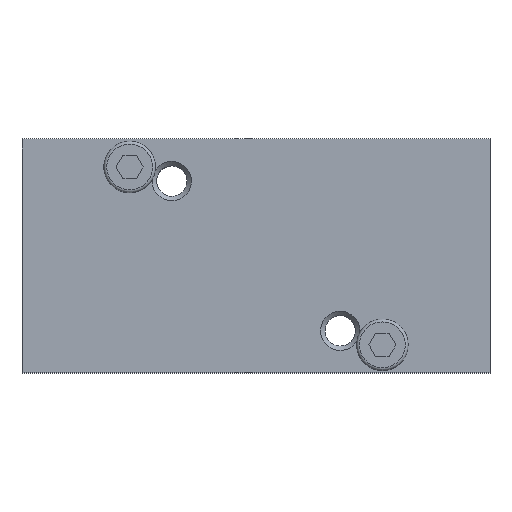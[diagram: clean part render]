
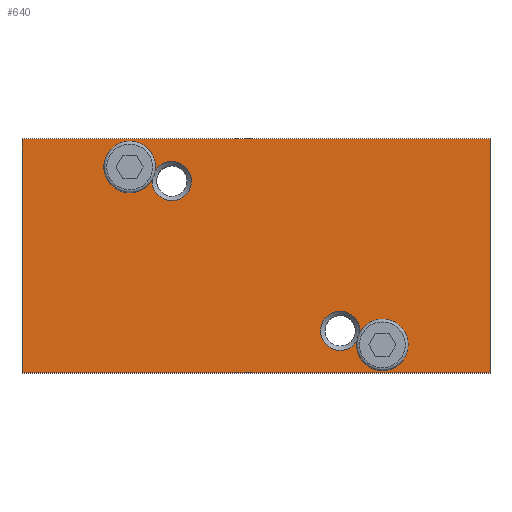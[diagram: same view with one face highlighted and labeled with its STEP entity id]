
A CAD part, top view. The second image highlights one B-rep face of the part: STEP entity #640.
In plain terms, the highlighted planar face has unit normal (0, 0, 1).
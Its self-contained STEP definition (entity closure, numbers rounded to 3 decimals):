
#486=CARTESIAN_POINT('',(-11.093,8.17,0.0));
#487=VERTEX_POINT('',#486);
#488=CARTESIAN_POINT('',(-10.776,9.12,0.0));
#489=VERTEX_POINT('',#488);
#523=CARTESIAN_POINT('',(-13.5,9.5,0.0));
#524=DIRECTION('',(0.0,0.0,-1.0));
#525=DIRECTION('',(1.0,0.0,0.0));
#526=AXIS2_PLACEMENT_3D('',#523,#524,#525);
#527=CIRCLE('',#526,2.75);
#528=EDGE_CURVE('',#487,#489,#527,.T.);
#571=CARTESIAN_POINT('',(0.,0.,0.0));
#572=DIRECTION('',(0.0,0.0,1.0));
#573=DIRECTION('',(1.0,0.0,0.0));
#574=AXIS2_PLACEMENT_3D('',#571,#572,#573);
#575=PLANE('',#574);
#576=CARTESIAN_POINT('',(-25.0,12.5,0.0));
#577=VERTEX_POINT('',#576);
#578=CARTESIAN_POINT('',(25.0,12.5,0.0));
#579=VERTEX_POINT('',#578);
#580=CARTESIAN_POINT('',(-25.0,12.5,0.0));
#581=DIRECTION('',(1.0,0.0,0.0));
#582=VECTOR('',#581,50.0);
#583=LINE('',#580,#582);
#584=EDGE_CURVE('',#577,#579,#583,.T.);
#585=ORIENTED_EDGE('',*,*,#584,.F.);
#586=CARTESIAN_POINT('',(-25.0,-12.5,0.0));
#587=VERTEX_POINT('',#586);
#588=CARTESIAN_POINT('',(-25.0,-12.5,0.0));
#589=DIRECTION('',(0.0,1.0,0.0));
#590=VECTOR('',#589,25.0);
#591=LINE('',#588,#590);
#592=EDGE_CURVE('',#587,#577,#591,.T.);
#593=ORIENTED_EDGE('',*,*,#592,.F.);
#594=CARTESIAN_POINT('',(25.0,-12.5,0.0));
#595=VERTEX_POINT('',#594);
#596=CARTESIAN_POINT('',(25.0,-12.5,0.0));
#597=DIRECTION('',(-1.0,0.0,0.0));
#598=VECTOR('',#597,50.0);
#599=LINE('',#596,#598);
#600=EDGE_CURVE('',#595,#587,#599,.T.);
#601=ORIENTED_EDGE('',*,*,#600,.F.);
#602=CARTESIAN_POINT('',(25.0,12.5,0.0));
#603=DIRECTION('',(0.0,-1.0,0.0));
#604=VECTOR('',#603,25.);
#605=LINE('',#602,#604);
#606=EDGE_CURVE('',#579,#595,#605,.T.);
#607=ORIENTED_EDGE('',*,*,#606,.F.);
#608=EDGE_LOOP('',(#585,#593,#601,#607));
#609=FACE_OUTER_BOUND('',#608,.T.);
#610=ORIENTED_EDGE('',*,*,#528,.T.);
#611=CARTESIAN_POINT('',(-9.0,8.0,0.0));
#612=DIRECTION('',(0.0,0.0,-1.0));
#613=DIRECTION('',(1.0,0.0,0.0));
#614=AXIS2_PLACEMENT_3D('',#611,#612,#613);
#615=CIRCLE('',#614,2.1);
#616=EDGE_CURVE('',#489,#487,#615,.T.);
#617=ORIENTED_EDGE('',*,*,#616,.T.);
#618=EDGE_LOOP('',(#610,#617));
#619=FACE_BOUND('',#618,.T.);
#620=CARTESIAN_POINT('',(11.093,-8.17,0.0));
#621=VERTEX_POINT('',#620);
#622=CARTESIAN_POINT('',(10.776,-9.12,0.0));
#623=VERTEX_POINT('',#622);
#624=CARTESIAN_POINT('',(13.5,-9.5,0.0));
#625=DIRECTION('',(0.0,0.0,-1.0));
#626=DIRECTION('',(1.0,0.0,0.0));
#627=AXIS2_PLACEMENT_3D('',#624,#625,#626);
#628=CIRCLE('',#627,2.75);
#629=EDGE_CURVE('',#621,#623,#628,.T.);
#630=ORIENTED_EDGE('',*,*,#629,.T.);
#631=CARTESIAN_POINT('',(9.0,-8.0,0.0));
#632=DIRECTION('',(0.0,0.0,-1.0));
#633=DIRECTION('',(1.0,0.0,0.0));
#634=AXIS2_PLACEMENT_3D('',#631,#632,#633);
#635=CIRCLE('',#634,2.1);
#636=EDGE_CURVE('',#623,#621,#635,.T.);
#637=ORIENTED_EDGE('',*,*,#636,.T.);
#638=EDGE_LOOP('',(#630,#637));
#639=FACE_BOUND('',#638,.T.);
#640=ADVANCED_FACE('',(#609,#619,#639),#575,.T.);
